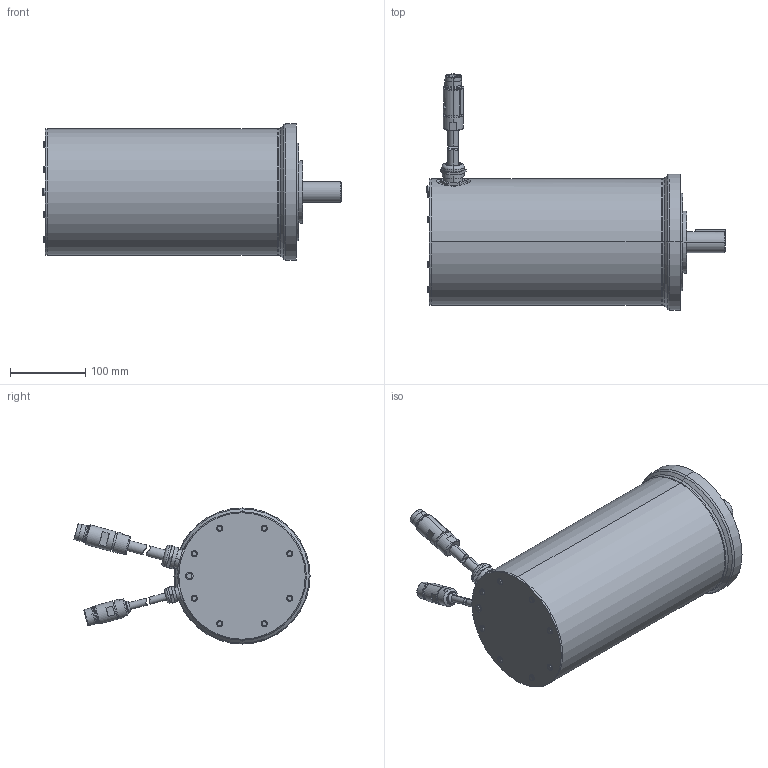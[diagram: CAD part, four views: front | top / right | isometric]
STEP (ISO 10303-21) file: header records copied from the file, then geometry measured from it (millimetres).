
FILE_DESCRIPTION (( 'STEP AP214' ), '1' );
FILE_NAME ('Rockwell Automation-MPS-x560x-xJ54DA.STEP', '2015-07-07T20:57:41', ( 'Windows User' ), ( '' ), 'SwSTEP 2.0', 'SolidWorks 2015', '' );
FILE_SCHEMA (( 'AUTOMOTIVE_DESIGN' ));
Length unit declared in the file: inch
Products named in the file (5): Rockwell Automation-MPS-x560x-xJ54DA_MPS-xxxx-Power Connector; Rockwell Automation-MPS-x560x-xJ54DA_MPS-5xx-Shaft-Key; Rockwell Automation-MPS-x560x-xJ54DA_MPS-5xx-Body_Body-B560-Brake; Rockwell Automation-MPS-x560x-xJ54DA; Rockwell Automation-MPS-x560x-xJ54DA_MPS-xxxx-Feedback Connector
Assembly tree (4 placements, depth 2):
  Rockwell Automation-MPS-x560x-xJ54DA
    Rockwell Automation-MPS-x560x-xJ54DA_MPS-5xx-Body_Body-B560-Brake
    Rockwell Automation-MPS-x560x-xJ54DA_MPS-5xx-Shaft-Key
    Rockwell Automation-MPS-x560x-xJ54DA_MPS-xxxx-Power Connector
    Rockwell Automation-MPS-x560x-xJ54DA_MPS-xxxx-Feedback Connector
Bounding box: 397.38 x 314.27 x 181.1 mm (x, y, z)
Volume: 4243562.2 mm3; surface area: 555911.7 mm2
Topology: 14 solids, 14 shells, 583 faces, 1364 edges, 865 vertices
Faces by surface type: cylinder 279, plane 156, cone 77, torus 58, sphere 13
Entity records: 18864 total; most frequent: CARTESIAN_POINT 4282, DIRECTION 2967, ORIENTED_EDGE 2604, EDGE_CURVE 1302, AXIS2_PLACEMENT_3D 1254, VERTEX_POINT 839, EDGE_LOOP 687, CIRCLE 664
